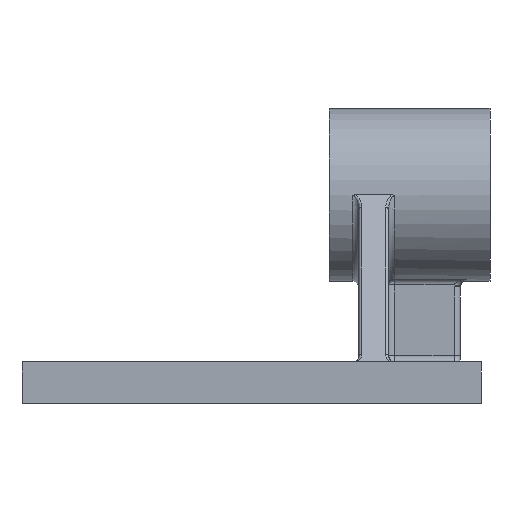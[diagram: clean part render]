
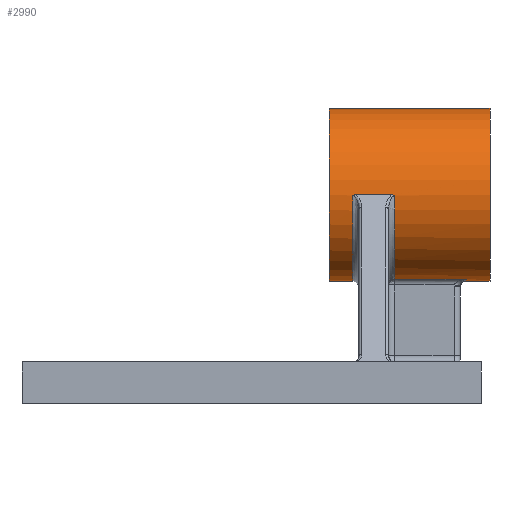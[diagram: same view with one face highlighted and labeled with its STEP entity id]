
A CAD part, left-side view. The second image highlights one B-rep face of the part: STEP entity #2990.
In plain terms, the highlighted cylindrical face has radius 29 mm (diameter 58 mm), a full revolution.
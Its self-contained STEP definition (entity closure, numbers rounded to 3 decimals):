
#213=CARTESIAN_POINT('',(-29.,-34.901,70.));
#214=VERTEX_POINT('',#213);
#215=CARTESIAN_POINT('',(-28.999,-34.0,69.725));
#216=VERTEX_POINT('',#215);
#217=CARTESIAN_POINT('',(-28.999,-34.,69.725));
#218=CARTESIAN_POINT('',(-28.999,-34.001,69.726));
#219=CARTESIAN_POINT('',(-28.999,-34.002,69.726));
#220=CARTESIAN_POINT('',(-29.,-34.124,69.813));
#221=CARTESIAN_POINT('',(-29.,-34.255,69.878));
#222=CARTESIAN_POINT('',(-29.,-34.558,69.976));
#223=CARTESIAN_POINT('',(-29.,-34.729,70.));
#224=CARTESIAN_POINT('',(-29.,-34.901,70.));
#225=B_SPLINE_CURVE_WITH_KNOTS('',3,(#217,#218,#219,#220,#221,#222,#223,#224),.UNSPECIFIED.,.F.,.U.,(4,2,2,4),(0.,0.0,0.044,0.096),.UNSPECIFIED.);
#226=EDGE_CURVE('',#214,#216,#225,.F.);
#497=CARTESIAN_POINT('',(28.999,-34.0,69.725));
#498=VERTEX_POINT('',#497);
#499=CARTESIAN_POINT('',(0.,-34.0,70.0));
#500=DIRECTION('',(0.0,-1.0,0.0));
#501=DIRECTION('',(0.0,0.0,-1.0));
#502=AXIS2_PLACEMENT_3D('',#499,#500,#501);
#503=CIRCLE('',#502,29.);
#504=EDGE_CURVE('',#216,#498,#503,.T.);
#721=CARTESIAN_POINT('',(29.,-47.099,70.));
#722=VERTEX_POINT('',#721);
#723=CARTESIAN_POINT('',(28.999,-48.,69.725));
#724=VERTEX_POINT('',#723);
#725=CARTESIAN_POINT('',(28.999,-48.,69.725));
#726=CARTESIAN_POINT('',(28.999,-47.999,69.726));
#727=CARTESIAN_POINT('',(28.999,-47.998,69.726));
#728=CARTESIAN_POINT('',(29.,-47.876,69.813));
#729=CARTESIAN_POINT('',(29.,-47.745,69.878));
#730=CARTESIAN_POINT('',(29.,-47.442,69.976));
#731=CARTESIAN_POINT('',(29.,-47.271,70.));
#732=CARTESIAN_POINT('',(29.,-47.099,70.));
#733=B_SPLINE_CURVE_WITH_KNOTS('',3,(#725,#726,#727,#728,#729,#730,#731,#732),.UNSPECIFIED.,.F.,.U.,(4,2,2,4),(0.,0.0,0.044,0.096),.UNSPECIFIED.);
#734=EDGE_CURVE('',#722,#724,#733,.F.);
#1159=CARTESIAN_POINT('',(29.,-34.901,70.));
#1160=VERTEX_POINT('',#1159);
#1161=CARTESIAN_POINT('',(29.,-34.901,70.0));
#1162=CARTESIAN_POINT('',(29.,-34.865,70.0));
#1163=CARTESIAN_POINT('',(29.,-34.83,69.999));
#1164=CARTESIAN_POINT('',(29.,-34.645,69.988));
#1165=CARTESIAN_POINT('',(29.,-34.498,69.96));
#1166=CARTESIAN_POINT('',(29.,-34.23,69.866));
#1167=CARTESIAN_POINT('',(28.999,-34.112,69.805));
#1168=CARTESIAN_POINT('',(28.999,-34.002,69.726));
#1169=CARTESIAN_POINT('',(28.999,-34.001,69.726));
#1170=CARTESIAN_POINT('',(28.999,-34.,69.725));
#1171=B_SPLINE_CURVE_WITH_KNOTS('',3,(#1161,#1162,#1163,#1164,#1165,#1166,#1167,#1168,#1169,#1170),.UNSPECIFIED.,.F.,.U.,(4,2,2,2,4),(0.0,0.011,0.056,0.096,0.096),.UNSPECIFIED.);
#1172=EDGE_CURVE('',#498,#1160,#1171,.F.);
#1338=CARTESIAN_POINT('',(29.,-47.099,70.0));
#1339=DIRECTION('',(0.0,1.0,0.0));
#1340=VECTOR('',#1339,12.199);
#1341=LINE('',#1338,#1340);
#1342=EDGE_CURVE('',#722,#1160,#1341,.T.);
#1610=CARTESIAN_POINT('',(-28.999,-48.,69.725));
#1611=VERTEX_POINT('',#1610);
#1612=CARTESIAN_POINT('',(-29.,-47.099,70.));
#1613=VERTEX_POINT('',#1612);
#1614=CARTESIAN_POINT('',(-29.,-47.099,70.0));
#1615=CARTESIAN_POINT('',(-29.,-47.135,70.0));
#1616=CARTESIAN_POINT('',(-29.,-47.17,69.999));
#1617=CARTESIAN_POINT('',(-29.,-47.355,69.988));
#1618=CARTESIAN_POINT('',(-29.,-47.502,69.96));
#1619=CARTESIAN_POINT('',(-29.,-47.77,69.866));
#1620=CARTESIAN_POINT('',(-28.999,-47.888,69.805));
#1621=CARTESIAN_POINT('',(-28.999,-47.998,69.726));
#1622=CARTESIAN_POINT('',(-28.999,-47.999,69.726));
#1623=CARTESIAN_POINT('',(-28.999,-48.,69.725));
#1624=B_SPLINE_CURVE_WITH_KNOTS('',3,(#1614,#1615,#1616,#1617,#1618,#1619,#1620,#1621,#1622,#1623),.UNSPECIFIED.,.F.,.U.,(4,2,2,2,4),(0.0,0.011,0.056,0.096,0.096),.UNSPECIFIED.);
#1625=EDGE_CURVE('',#1611,#1613,#1624,.F.);
#1693=CARTESIAN_POINT('',(-6.548,-48.,41.749));
#1694=VERTEX_POINT('',#1693);
#1702=CARTESIAN_POINT('',(0.,-48.,70.0));
#1703=DIRECTION('',(0.0,1.,0.0));
#1704=DIRECTION('',(-0.766,0.0,-0.643));
#1705=AXIS2_PLACEMENT_3D('',#1702,#1703,#1704);
#1706=CIRCLE('',#1705,29.);
#1707=EDGE_CURVE('',#1694,#1611,#1706,.T.);
#1881=CARTESIAN_POINT('',(6.548,-72.,41.749));
#1882=VERTEX_POINT('',#1881);
#2094=CARTESIAN_POINT('',(-6.548,-72.,41.749));
#2095=VERTEX_POINT('',#2094);
#2096=CARTESIAN_POINT('',(0.,-72.,70.0));
#2097=DIRECTION('',(0.0,1.0,0.0));
#2098=DIRECTION('',(0.0,0.0,-1.0));
#2099=AXIS2_PLACEMENT_3D('',#2096,#2097,#2098);
#2100=CIRCLE('',#2099,29.);
#2101=EDGE_CURVE('',#1882,#2095,#2100,.T.);
#2147=CARTESIAN_POINT('',(6.548,-48.,41.749));
#2148=VERTEX_POINT('',#2147);
#2156=CARTESIAN_POINT('',(6.548,-48.,41.749));
#2157=DIRECTION('',(0.0,-1.0,0.0));
#2158=VECTOR('',#2157,24.);
#2159=LINE('',#2156,#2158);
#2160=EDGE_CURVE('',#2148,#1882,#2159,.T.);
#2832=CARTESIAN_POINT('',(-6.548,-72.,41.749));
#2833=DIRECTION('',(0.0,1.0,0.0));
#2834=VECTOR('',#2833,24.0);
#2835=LINE('',#2832,#2834);
#2836=EDGE_CURVE('',#2095,#1694,#2835,.T.);
#2889=CARTESIAN_POINT('',(0.,-48.,70.0));
#2890=DIRECTION('',(0.0,1.0,0.0));
#2891=DIRECTION('',(0.766,0.0,-0.643));
#2892=AXIS2_PLACEMENT_3D('',#2889,#2890,#2891);
#2893=CIRCLE('',#2892,29.0);
#2894=EDGE_CURVE('',#724,#2148,#2893,.T.);
#2944=CARTESIAN_POINT('',(0.,-80.0,70.0));
#2945=DIRECTION('',(0.0,1.0,0.0));
#2946=DIRECTION('',(-1.0,0.0,0.0));
#2947=AXIS2_PLACEMENT_3D('',#2944,#2945,#2946);
#2948=CYLINDRICAL_SURFACE('',#2947,29.);
#2949=CARTESIAN_POINT('',(29.,-80.0,70.0));
#2950=VERTEX_POINT('',#2949);
#2951=CARTESIAN_POINT('',(0.,-80.0,70.0));
#2952=DIRECTION('',(0.0,1.0,0.0));
#2953=DIRECTION('',(-1.0,0.0,0.0));
#2954=AXIS2_PLACEMENT_3D('',#2951,#2952,#2953);
#2955=CIRCLE('',#2954,29.);
#2956=EDGE_CURVE('',#2950,#2950,#2955,.T.);
#2957=ORIENTED_EDGE('',*,*,#2956,.T.);
#2958=EDGE_LOOP('',(#2957));
#2959=FACE_OUTER_BOUND('',#2958,.T.);
#2960=CARTESIAN_POINT('',(-29.,-34.901,70.));
#2961=DIRECTION('',(0.0,-1.0,0.0));
#2962=VECTOR('',#2961,12.199);
#2963=LINE('',#2960,#2962);
#2964=EDGE_CURVE('',#214,#1613,#2963,.T.);
#2965=ORIENTED_EDGE('',*,*,#2964,.T.);
#2966=ORIENTED_EDGE('',*,*,#1625,.F.);
#2967=ORIENTED_EDGE('',*,*,#1707,.F.);
#2968=ORIENTED_EDGE('',*,*,#2836,.F.);
#2969=ORIENTED_EDGE('',*,*,#2101,.F.);
#2970=ORIENTED_EDGE('',*,*,#2160,.F.);
#2971=ORIENTED_EDGE('',*,*,#2894,.F.);
#2972=ORIENTED_EDGE('',*,*,#734,.F.);
#2973=ORIENTED_EDGE('',*,*,#1342,.T.);
#2974=ORIENTED_EDGE('',*,*,#1172,.F.);
#2975=ORIENTED_EDGE('',*,*,#504,.F.);
#2976=ORIENTED_EDGE('',*,*,#226,.F.);
#2977=EDGE_LOOP('',(#2965,#2966,#2967,#2968,#2969,#2970,#2971,#2972,#2973,#2974,#2975,#2976));
#2978=FACE_BOUND('',#2977,.T.);
#2979=CARTESIAN_POINT('',(29.,-26.,70.0));
#2980=VERTEX_POINT('',#2979);
#2981=CARTESIAN_POINT('',(0.,-26.,70.0));
#2982=DIRECTION('',(0.0,-1.0,0.0));
#2983=DIRECTION('',(-1.0,0.0,0.0));
#2984=AXIS2_PLACEMENT_3D('',#2981,#2982,#2983);
#2985=CIRCLE('',#2984,29.);
#2986=EDGE_CURVE('',#2980,#2980,#2985,.T.);
#2987=ORIENTED_EDGE('',*,*,#2986,.T.);
#2988=EDGE_LOOP('',(#2987));
#2989=FACE_BOUND('',#2988,.T.);
#2990=ADVANCED_FACE('',(#2959,#2978,#2989),#2948,.T.);
